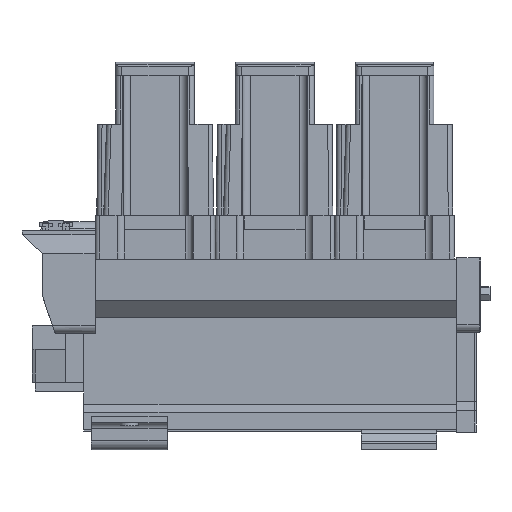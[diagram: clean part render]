
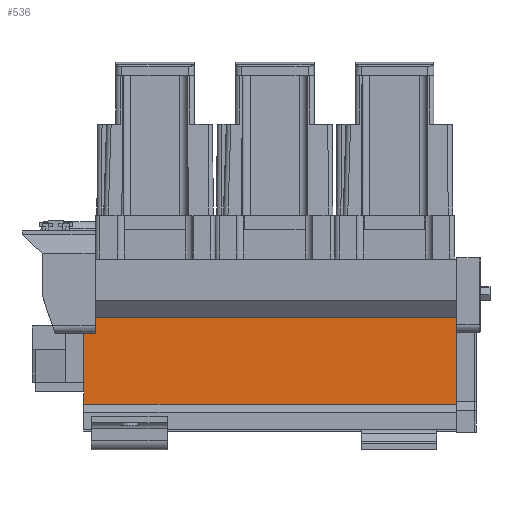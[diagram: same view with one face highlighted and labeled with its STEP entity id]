
A CAD part, left-side view. The second image highlights one B-rep face of the part: STEP entity #536.
In plain terms, the highlighted planar face has unit normal (-1, 0, 0).
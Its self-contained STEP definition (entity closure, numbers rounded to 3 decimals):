
#536=ADVANCED_FACE('',(#1809),#1262,.T.);
#1262=PLANE('',#14027);
#1809=FACE_OUTER_BOUND('',#2469,.T.);
#2469=EDGE_LOOP('',(#6471,#6472,#6473,#6474,#6475,#6476,#6477));
#3268=LINE('',#18956,#4858);
#3287=LINE('',#18995,#4877);
#3288=LINE('',#18998,#4878);
#3289=LINE('',#19000,#4879);
#3290=LINE('',#19002,#4880);
#3291=LINE('',#19004,#4881);
#3292=LINE('',#19005,#4882);
#4858=VECTOR('',#15138,1.);
#4877=VECTOR('',#15167,1.);
#4878=VECTOR('',#15168,1.);
#4879=VECTOR('',#15169,1.);
#4880=VECTOR('',#15170,1.);
#4881=VECTOR('',#15171,1.);
#4882=VECTOR('',#15172,1.);
#6471=ORIENTED_EDGE('',*,*,#11757,.T.);
#6472=ORIENTED_EDGE('',*,*,#11758,.T.);
#6473=ORIENTED_EDGE('',*,*,#11759,.F.);
#6474=ORIENTED_EDGE('',*,*,#11760,.T.);
#6475=ORIENTED_EDGE('',*,*,#11761,.F.);
#6476=ORIENTED_EDGE('',*,*,#11738,.F.);
#6477=ORIENTED_EDGE('',*,*,#11762,.F.);
#10426=VERTEX_POINT('',#18954);
#10428=VERTEX_POINT('',#18957);
#10443=VERTEX_POINT('',#18996);
#10444=VERTEX_POINT('',#18997);
#10445=VERTEX_POINT('',#18999);
#10446=VERTEX_POINT('',#19001);
#10447=VERTEX_POINT('',#19003);
#11738=EDGE_CURVE('',#10426,#10428,#3268,.T.);
#11757=EDGE_CURVE('',#10443,#10444,#3287,.T.);
#11758=EDGE_CURVE('',#10444,#10445,#3288,.T.);
#11759=EDGE_CURVE('',#10446,#10445,#3289,.T.);
#11760=EDGE_CURVE('',#10446,#10447,#3290,.T.);
#11761=EDGE_CURVE('',#10428,#10447,#3291,.T.);
#11762=EDGE_CURVE('',#10443,#10426,#3292,.T.);
#14027=AXIS2_PLACEMENT_3D('',#19006,#15173,#15174);
#15138=DIRECTION('',(0.,0.,-1.));
#15167=DIRECTION('',(0.,1.,0.));
#15168=DIRECTION('',(0.,0.,-1.));
#15169=DIRECTION('',(0.,-1.,0.));
#15170=DIRECTION('',(0.,0.,-1.));
#15171=DIRECTION('',(0.,1.,0.));
#15172=DIRECTION('',(0.,0.,-1.));
#15173=DIRECTION('',(-1.,0.,0.));
#15174=DIRECTION('',(0.,0.,-1.));
#18954=CARTESIAN_POINT('',(-57.5,-120.,-224.056));
#18956=CARTESIAN_POINT('',(-57.5,-120.,-225.751));
#18957=CARTESIAN_POINT('',(-57.5,-120.,-225.751));
#18995=CARTESIAN_POINT('',(-57.5,126.,-168.415));
#18996=CARTESIAN_POINT('',(-57.5,-120.,-168.415));
#18997=CARTESIAN_POINT('',(-57.5,118.5,-168.415));
#18998=CARTESIAN_POINT('',(-57.5,118.5,-225.751));
#18999=CARTESIAN_POINT('',(-57.5,118.5,-179.));
#19000=CARTESIAN_POINT('',(-57.5,126.,-179.));
#19001=CARTESIAN_POINT('',(-57.5,126.,-179.));
#19002=CARTESIAN_POINT('',(-57.5,126.,-225.751));
#19003=CARTESIAN_POINT('',(-57.5,126.,-225.751));
#19004=CARTESIAN_POINT('',(-57.5,126.,-225.751));
#19005=CARTESIAN_POINT('',(-57.5,-120.,-225.751));
#19006=CARTESIAN_POINT('',(-57.5,126.,-225.751));
